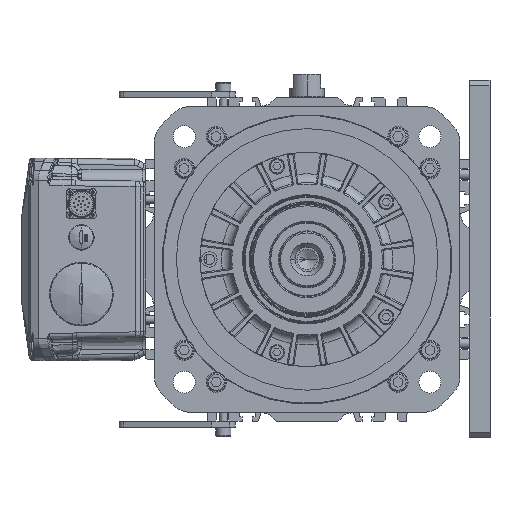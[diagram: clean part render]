
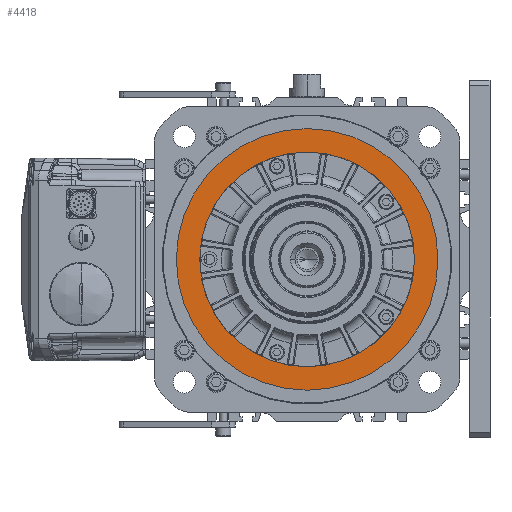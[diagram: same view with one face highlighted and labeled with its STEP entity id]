
A CAD part, left-side view. The second image highlights one B-rep face of the part: STEP entity #4418.
In plain terms, the highlighted planar face has unit normal (-1, 0, 0).
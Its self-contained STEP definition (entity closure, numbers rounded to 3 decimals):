
#2771=CARTESIAN_POINT('',(112.02,0.,0.));
#2772=DIRECTION('',(-1.,0.,0.));
#2773=DIRECTION('',(0.,-1.,0.));
#2774=AXIS2_PLACEMENT_3D('',#2771,#2772,#2773);
#2776=CARTESIAN_POINT('',(112.02,0.,0.));
#2777=DIRECTION('',(1.,0.,0.));
#2778=DIRECTION('',(0.,-1.,0.));
#2779=AXIS2_PLACEMENT_3D('',#2776,#2777,#2778);
#2781=CARTESIAN_POINT('',(112.02,0.,0.));
#2782=DIRECTION('',(-1.,0.,0.));
#2783=DIRECTION('',(0.,-1.,0.));
#2784=AXIS2_PLACEMENT_3D('',#2781,#2782,#2783);
#2803=CARTESIAN_POINT('',(112.02,0.,0.));
#2804=DIRECTION('',(1.,0.,0.));
#2805=DIRECTION('',(0.,-1.,0.));
#2806=AXIS2_PLACEMENT_3D('',#2803,#2804,#2805);
#3559=CARTESIAN_POINT('',(112.02,-92.75,0.));
#3561=VERTEX_POINT('',#3559);
#3563=CARTESIAN_POINT('',(112.02,92.75,0.));
#3565=VERTEX_POINT('',#3563);
#3566=CARTESIAN_POINT('',(112.02,-113.,0.));
#3567=CARTESIAN_POINT('',(112.02,113.,0.));
#3568=VERTEX_POINT('',#3566);
#3569=VERTEX_POINT('',#3567);
#4402=CARTESIAN_POINT('',(112.02,0.,0.));
#4403=DIRECTION('',(-1.,0.,0.));
#4404=DIRECTION('',(0.,-1.,0.));
#4405=AXIS2_PLACEMENT_3D('',#4402,#4403,#4404);
#4406=PLANE('',#4405);
#4408=ORIENTED_EDGE('',*,*,#4407,.T.);
#4410=ORIENTED_EDGE('',*,*,#4409,.F.);
#4411=EDGE_LOOP('',(#4408,#4410));
#4412=FACE_OUTER_BOUND('',#4411,.F.);
#4413=ORIENTED_EDGE('',*,*,#4397,.T.);
#4415=ORIENTED_EDGE('',*,*,#4414,.F.);
#4416=EDGE_LOOP('',(#4413,#4415));
#4417=FACE_BOUND('',#4416,.F.);
#4418=ADVANCED_FACE('',(#4412,#4417),#4406,.T.);
#2775=CIRCLE('',#2774,92.75);
#2780=CIRCLE('',#2779,92.75);
#2785=CIRCLE('',#2784,113.);
#2807=CIRCLE('',#2806,113.);
#4397=EDGE_CURVE('',#3561,#3565,#2775,.T.);
#4407=EDGE_CURVE('',#3568,#3569,#2807,.T.);
#4409=EDGE_CURVE('',#3568,#3569,#2785,.T.);
#4414=EDGE_CURVE('',#3561,#3565,#2780,.T.);
